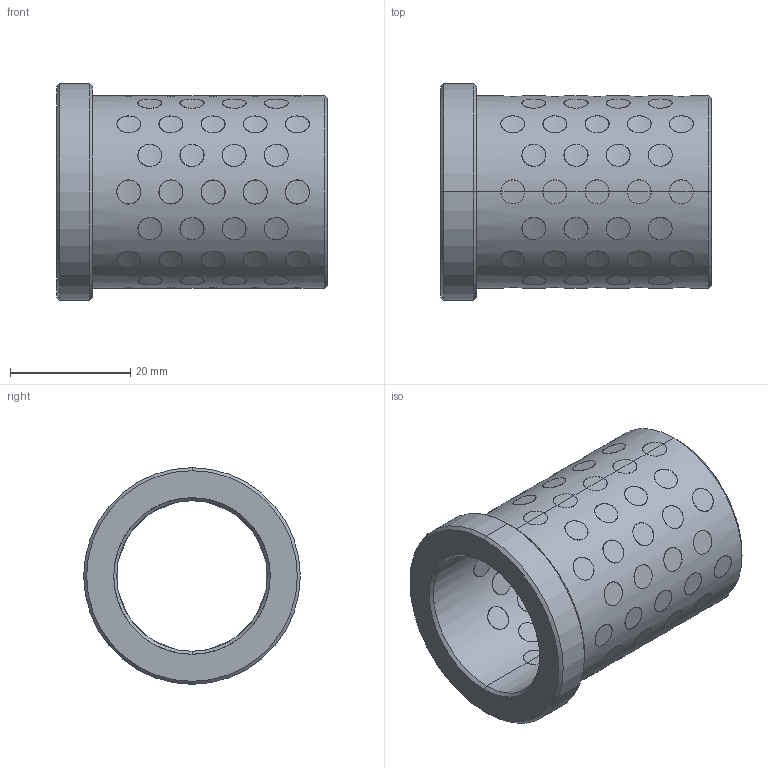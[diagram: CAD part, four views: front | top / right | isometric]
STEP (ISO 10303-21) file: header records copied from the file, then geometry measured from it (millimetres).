
FILE_DESCRIPTION(('CATIA V5 STEP Exchange'),'2;1');
FILE_NAME('C:\Users\Utente\Desktop\3D files G401\G4012545.stp','2020-04-22T08:36:27+00:00',('none'),('none'),'CATIA Version 5 Release 20 GA (IN-10)','CATIA V5 STEP AP203','none');
FILE_SCHEMA(('CONFIG_CONTROL_DESIGN'));
Products named in the file (1): G4012545
Bounding box: 45 x 36 x 36 mm (x, y, z)
Surface area: 15325.8 mm2 (no closed solid volume)
Topology: 0 solids, 471 shells, 471 faces, 2044 edges, 2044 vertices
Faces by surface type: cylinder 458, revolution 10, plane 3
Entity records: 42273 total; most frequent: CARTESIAN_POINT 28107, ORIENTED_EDGE 2044, EDGE_CURVE 2044, VERTEX_POINT 2044, DIRECTION 1657, B_SPLINE_CURVE_WITH_KNOTS 1329, VECTOR 688, LINE 688
